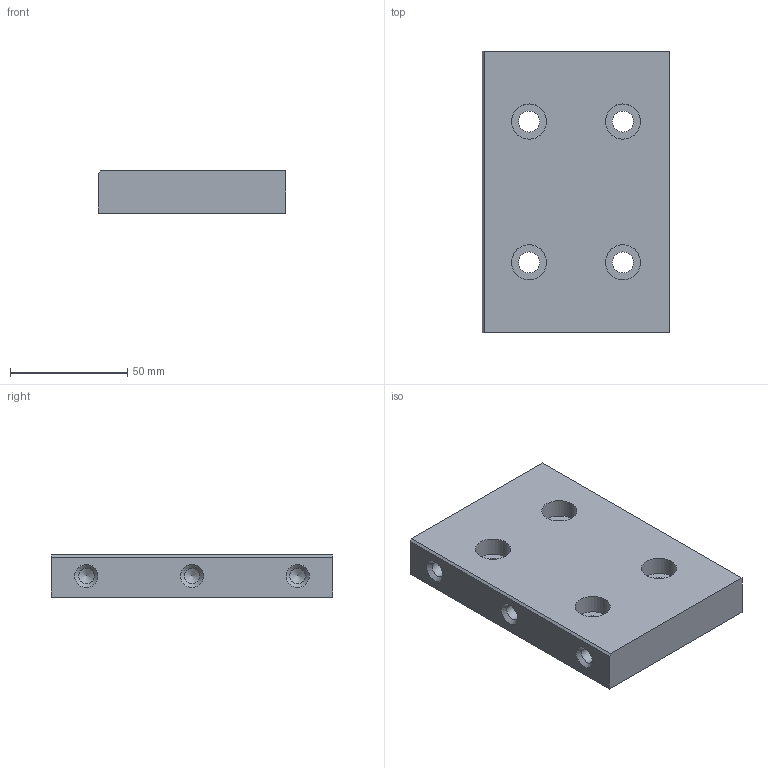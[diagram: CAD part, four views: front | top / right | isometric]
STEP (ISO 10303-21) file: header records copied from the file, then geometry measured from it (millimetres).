
FILE_DESCRIPTION(('STEP AP203'), '1');
FILE_NAME('眐珆1800.01.01.11.002 - 砑僗鴀', '', ('UNSPECIFIED'), ('UNSPECIFIED'), 'C3D Converter', 'C3D Toolkit', '');
FILE_SCHEMA(('CONFIG_CONTROL_DESIGN'));
Length unit declared in the file: millimetre
Products named in the file (1): ТППФ1800.01.01.11.002
Bounding box: 80 x 120 x 18 mm (x, y, z)
Volume: 162296.1 mm3; surface area: 29680.2 mm2
Topology: 1 solids, 1 shells, 28 faces, 60 edges, 38 vertices
Faces by surface type: cylinder 11, plane 11, cone 6
Full cylindrical faces by diameter (mm): 6.647 x3, 9 x4, 15 x4
Entity records: 924 total; most frequent: DIRECTION 123, CARTESIAN_POINT 104, ORIENTED_EDGE 80, EDGE_LOOP 57, AXIS2_PLACEMENT_3D 54, EDGE_CURVE 40, VERTEX_POINT 35, FACE_OUTER_BOUND 31
